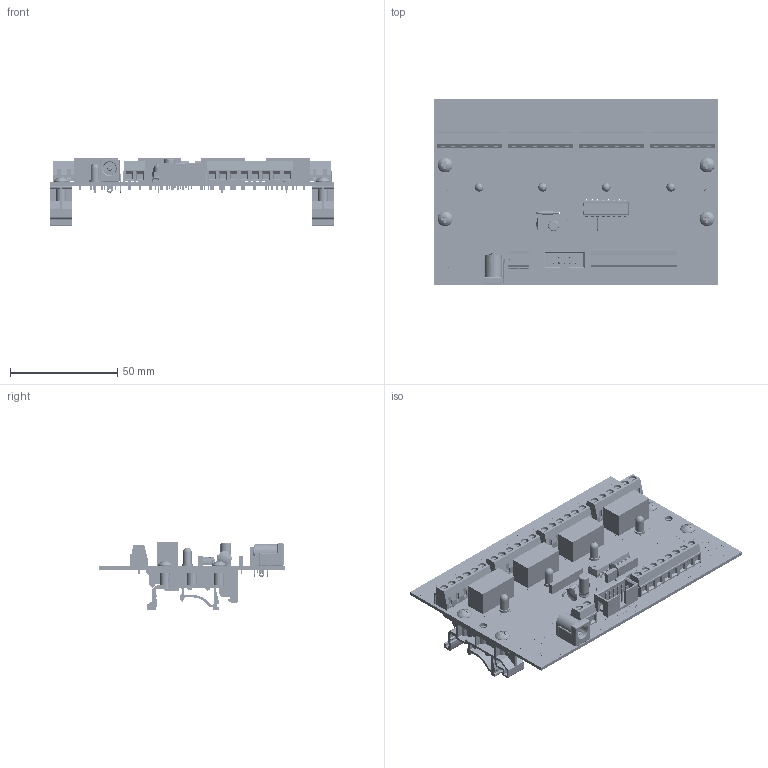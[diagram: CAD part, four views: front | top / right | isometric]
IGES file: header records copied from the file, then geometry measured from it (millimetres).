
Start section: SolidWorks IGES file using analytic representation for surfaces
Global section: file name: W:\end-user\products\rlyd\rlyd304\3dmodel\rev_a\render\rlyd304-xxv-din_rev_a.igs; native system: SolidWorks 2018; preprocessor: SolidWorks 2018; author: leviroy; date: 220809.104128; units: inch
Bounding box: 132.08 x 86.36 x 32 mm (x, y, z)
Surface area: 57850.2 mm2 (no closed solid volume)
Topology: 0 solids, 0 shells, 6789 faces, 62265 edges, 62246 vertices
Faces by surface type: bspline 5786, revolution 1003
